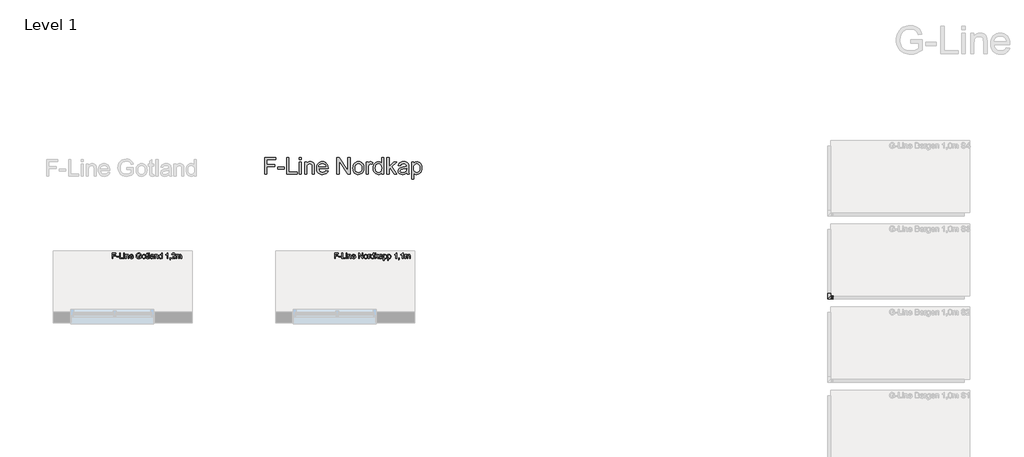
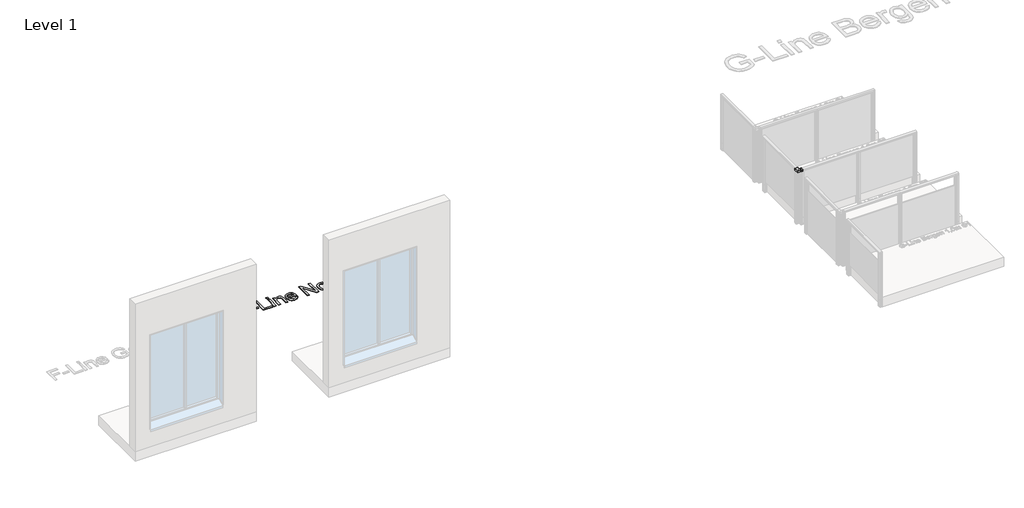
# One storey, part 56 of 66: 4 proxies.
"""IFC4 building model written with IfcOpenShell, lengths in millimetres."""

from ifc_helpers import new_model, si_unit, origin, origin_with_axes, place, context, project, spatial, polyline, outline, extrude, transform, mapped, element, save
from components import generic_models_029e0633

model = new_model("IFC4")

# Units and contexts
model_context = context("Model", 3, world=origin())
ifc_project = project(units=[si_unit("LENGTHUNIT", "METRE", prefix="MILLI")], contexts=[model_context])

# Site, building, storey
site = spatial("IfcSite", under=ifc_project)
building = spatial("IfcBuilding", under=site)
storey = spatial("IfcBuildingStorey", under=building, Name="Level 1", Elevation=0.0)

# Proxies
placement = place(None, origin())
generic_models_shape = generic_models_029e0633(model_context)
element("IfcBuildingElementProxy", 1, Name="Innore top rail 51x43 corner element : Innore top rail 51x43 element", ObjectType="Innore top rail 51x43 corner element : Innore top rail 51x43 element", at=placement, inside=storey, context=model_context, shape_type="MappedRepresentation", body=[
    mapped(generic_models_shape, transform((4466.5256066, 1488.9093698, 1000.0), x_axis=(0.0, -1.0, 0.0), y_axis=(1.0, 0.0, 0.0), z_axis=(0.0, 0.0, 1.0))),
])
element("IfcBuildingElementProxy", 2, Name="100mm Arial", ObjectType="100mm Arial", at=placement, inside=storey, context=model_context, shape_type="SweptSolid", body=[
    extrude(outline(polyline([(-8437.4350963, 2190.2886441), (-8437.4350963, 2290.7449542), (-8369.9410129, 2290.7449542), (-8369.9410129, 2278.1879155), (-8424.8780575, 2278.1879155), (-8424.8780575, 2248.3649484), (-8377.7891622, 2248.3649484), (-8377.7891622, 2235.8079096), (-8424.8780575, 2235.8079096), (-8424.8780575, 2190.2886441), (-8437.4350963, 2190.2886441)])), origin_with_axes(), (0.0, 0.0, 1.0), 10.0),
    extrude(outline(polyline([(-8360.5232339, 2220.1116112), (-8360.5232339, 2232.6686499), (-8321.2824877, 2232.6686499), (-8321.2824877, 2220.1116112), (-8360.5232339, 2220.1116112)])), origin_with_axes(), (0.0, 0.0, 1.0), 10.0),
    extrude(outline(polyline([(-8305.5861892, 2190.2886441), (-8305.5861892, 2290.7449542), (-8293.0291505, 2290.7449542), (-8293.0291505, 2202.8456829), (-8242.8009954, 2202.8456829), (-8242.8009954, 2190.2886441), (-8305.5861892, 2190.2886441)])), origin_with_axes(), (0.0, 0.0, 1.0), 10.0),
    extrude(outline(polyline([(-8230.2439566, 2278.1879155), (-8230.2439566, 2290.7449542), (-8217.6869179, 2290.7449542), (-8217.6869179, 2278.1879155), (-8230.2439566, 2278.1879155)])), origin_with_axes(), (0.0, 0.0, 1.0), 10.0),
    extrude(outline(polyline([(-8230.2439566, 2190.2886441), (-8230.2439566, 2264.0612469), (-8217.6869179, 2264.0612469), (-8217.6869179, 2190.2886441), (-8230.2439566, 2190.2886441)])), origin_with_axes(), (0.0, 0.0, 1.0), 10.0),
    extrude(outline(polyline([(-8198.8513597, 2190.2886441), (-8198.8513597, 2264.0612469), (-8186.2943209, 2264.0612469), (-8186.2943209, 2253.760551), (-8176.6926009, 2262.6632953), (-8163.5837391, 2265.6308767), (-8151.7256761, 2263.2396437), (-8143.6322722, 2256.9611243), (-8139.8676131, 2247.7272863), (-8139.2054256, 2235.5871804), (-8139.2054256, 2190.2886441), (-8151.7624643, 2190.2886441), (-8151.7624643, 2233.8949232), (-8153.2094668, 2245.0049595), (-8158.3230266, 2250.8788087), (-8166.943728, 2253.0738379), (-8180.5676245, 2248.1442192), (-8184.8626468, 2241.0011771), (-8186.2943209, 2229.4312884), (-8186.2943209, 2190.2886441), (-8198.8513597, 2190.2886441)])), origin_with_axes(), (0.0, 0.0, 1.0), 10.0),
    extrude(outline(polyline([(-8070.2888651, 2212.2634619), (-8057.977081, 2210.6938321), (-8062.4131247, 2201.4170744), (-8069.4917875, 2194.4824988), (-8079.0536537, 2190.1598854), (-8090.9393078, 2188.7190142), (-8105.6729817, 2191.2052834), (-8117.0098785, 2198.6640908), (-8124.2387597, 2210.6110586), (-8126.6483868, 2226.5618088), (-8124.2142343, 2243.0490536), (-8116.9117766, 2255.3792318), (-8105.728164, 2263.0679655), (-8091.6505463, 2265.6308767), (-8078.0113213, 2263.0740968), (-8067.1128172, 2255.4037572), (-8059.9667095, 2243.0981045), (-8057.5846736, 2226.6353852), (-8057.65825, 2223.2508709), (-8114.091348, 2223.2508709), (-8111.9177786, 2213.8514859), (-8106.8685982, 2206.9414357), (-8099.581469, 2202.6923987), (-8090.6940531, 2201.276053), (-8078.382269, 2203.9002779), (-8070.2888651, 2212.2634619)]), holes=[polyline([(-8114.091348, 2235.8079096), (-8070.1417123, 2235.8079096), (-8075.1694329, 2247.187726), (-8082.4902846, 2251.6023099), (-8091.6995972, 2253.0738379), (-8107.1629038, 2248.3772111), (-8112.0281432, 2242.8865723), (-8114.091348, 2235.8079096)])]), origin_with_axes(), (0.0, 0.0, 1.0), 10.0),
    extrude(outline(polyline([(-7957.1283634, 2229.5293902), (-7957.1283634, 2242.086429), (-7916.3179874, 2242.086429), (-7916.3179874, 2204.53794), (-7936.465658, 2192.6921398), (-7957.7660255, 2188.7190142), (-7971.8528403, 2190.2978411), (-7984.584623, 2195.0343218), (-7995.1612303, 2202.7629094), (-8002.782519, 2213.318057), (-8007.390241, 2225.979329), (-8008.9261483, 2240.0262898), (-8007.3963724, 2254.1744182), (-8002.8070445, 2267.3353966), (-7995.348237, 2278.3749221), (-7985.2100224, 2286.158692), (-7972.8614501, 2290.7756111), (-7958.7715697, 2292.3145841), (-7939.1266711, 2288.7461287), (-7925.3556218, 2278.8133149), (-7917.7649899, 2262.1973114), (-7929.34101, 2258.9354244), (-7935.0677064, 2270.5482327), (-7944.8533675, 2277.243685), (-7958.9677734, 2279.7575453), (-7975.0442166, 2277.0474813), (-7985.9825746, 2269.935096), (-7992.4450349, 2260.2597996), (-7996.3691096, 2240.5413246), (-7991.6479573, 2218.6523459), (-7977.9136961, 2205.5557469), (-7958.7715697, 2201.276053), (-7941.5914805, 2204.5011518), (-7928.8750262, 2211.3805451), (-7928.8750262, 2229.5293902), (-7957.1283634, 2229.5293902)])), origin_with_axes(), (0.0, 0.0, 1.0), 10.0),
    extrude(outline(polyline([(-7900.621689, 2227.1749455), (-7897.9054936, 2244.9620399), (-7889.7569074, 2257.4638964), (-7879.6892034, 2263.5891316), (-7867.6349367, 2265.6308767), (-7854.4433015, 2263.1446075), (-7843.906548, 2255.6858001), (-7836.9995636, 2243.8430655), (-7834.6972354, 2228.2050151), (-7838.7684628, 2205.8623152), (-7850.6265258, 2193.2194373), (-7867.6349367, 2188.7190142), (-7880.9859875, 2191.1960863), (-7891.5104782, 2198.6273026), (-7898.3438863, 2210.7183575), (-7900.621689, 2227.1749455)]), holes=[polyline([(-7888.0646502, 2227.1994709), (-7886.6115163, 2215.834983), (-7882.2521147, 2207.7385134), (-7875.6915524, 2202.8916681), (-7867.6349367, 2201.276053), (-7859.6151092, 2202.9008652), (-7853.0668097, 2207.7753016), (-7848.7074081, 2215.9790701), (-7847.2542742, 2227.5918784), (-7848.7166051, 2238.6252726), (-7853.1035979, 2246.6113775), (-7859.6610945, 2251.4582228), (-7867.6349367, 2253.0738379), (-7875.6915524, 2251.4643542), (-7882.2521147, 2246.635903), (-7886.6115163, 2238.5578275), (-7888.0646502, 2227.1994709)])]), origin_with_axes(), (0.0, 0.0, 1.0), 10.0),
    extrude(outline(polyline([(-7793.8868594, 2200.7610182), (-7792.3172296, 2189.9207621), (-7801.7104832, 2188.7190142), (-7812.2319082, 2190.8036789), (-7817.480358, 2196.2728579), (-7819.000937, 2210.5221538), (-7819.000937, 2251.5042081), (-7828.418716, 2251.5042081), (-7828.418716, 2264.0612469), (-7819.000937, 2264.0612469), (-7819.000937, 2281.9893627), (-7806.4438982, 2289.3715281), (-7806.4438982, 2264.0612469), (-7793.8868594, 2264.0612469), (-7793.8868594, 2251.5042081), (-7806.4438982, 2251.5042081), (-7806.4438982, 2210.8900358), (-7805.7817106, 2204.4153127), (-7803.6357323, 2202.1221816), (-7799.3560384, 2201.276053), (-7793.8868594, 2200.7610182)])), origin_with_axes(), (0.0, 0.0, 1.0), 10.0),
    extrude(outline(polyline([(-7781.3298206, 2190.2886441), (-7781.3298206, 2290.7449542), (-7768.7727819, 2290.7449542), (-7768.7727819, 2190.2886441), (-7781.3298206, 2190.2886441)])), origin_with_axes(), (0.0, 0.0, 1.0), 10.0),
    extrude(outline(polyline([(-7702.8483283, 2199.7064232), (-7715.0252224, 2191.1960863), (-7728.4774407, 2188.7190142), (-7738.9712746, 2190.2089363), (-7746.7121249, 2194.6787026), (-7751.4853938, 2201.4661254), (-7753.0764834, 2209.9090172), (-7750.6729877, 2219.841831), (-7744.3576801, 2227.0523181), (-7735.5653004, 2231.1725965), (-7724.7005189, 2233.0610574), (-7702.9219047, 2237.3775395), (-7702.8483283, 2240.1734426), (-7706.3064191, 2249.4440689), (-7720.187833, 2253.0738379), (-7732.8920246, 2250.6580795), (-7738.9498148, 2242.086429), (-7751.5068536, 2243.6560589), (-7746.0744628, 2255.918792), (-7735.1361048, 2263.1047537), (-7718.5691523, 2265.6308767), (-7703.3511004, 2263.3990593), (-7694.7549244, 2257.7949902), (-7690.9044262, 2249.2723906), (-7690.2912896, 2238.2849817), (-7690.2912896, 2222.6622597), (-7689.6536275, 2200.8468573), (-7687.1520299, 2190.2886441), (-7699.7090687, 2190.2886441), (-7702.8483283, 2199.7064232)]), holes=[polyline([(-7702.8483283, 2224.8205007), (-7723.1063635, 2220.9700025), (-7733.9098315, 2218.9343888), (-7738.802662, 2215.6234508), (-7740.5194446, 2210.7919339), (-7736.779311, 2203.9983798), (-7725.8041648, 2201.276053), (-7713.0999733, 2204.2804226), (-7704.9084675, 2211.5522234), (-7702.9219047, 2221.2643081), (-7702.8483283, 2224.8205007)])]), origin_with_axes(), (0.0, 0.0, 1.0), 10.0),
    extrude(outline(polyline([(-7673.0253613, 2190.2886441), (-7673.0253613, 2264.0612469), (-7660.4683225, 2264.0612469), (-7660.4683225, 2253.760551), (-7650.8666024, 2262.6632953), (-7637.7577407, 2265.6308767), (-7625.8996777, 2263.2396437), (-7617.8062738, 2256.9611243), (-7614.0416147, 2247.7272863), (-7613.3794271, 2235.5871804), (-7613.3794271, 2190.2886441), (-7625.9364659, 2190.2886441), (-7625.9364659, 2233.8949232), (-7627.3834684, 2245.0049595), (-7632.4970281, 2250.8788087), (-7641.1177296, 2253.0738379), (-7654.7416261, 2248.1442192), (-7659.0366484, 2241.0011771), (-7660.4683225, 2229.4312884), (-7660.4683225, 2190.2886441), (-7673.0253613, 2190.2886441)])), origin_with_axes(), (0.0, 0.0, 1.0), 10.0),
    extrude(outline(polyline([(-7550.5942333, 2190.2886441), (-7550.5942333, 2202.1344443), (-7558.902235, 2192.0728718), (-7570.3862846, 2188.7190142), (-7585.9354303, 2193.5750566), (-7596.9228392, 2207.1253767), (-7600.8223883, 2227.1013691), (-7597.2294075, 2247.0896241), (-7586.4627278, 2260.8484108), (-7570.4353355, 2265.6308767), (-7558.8593154, 2262.2095741), (-7550.5942333, 2253.3190926), (-7550.5942333, 2290.7449542), (-7538.0371945, 2290.7449542), (-7538.0371945, 2190.2886441), (-7550.5942333, 2190.2886441)]), holes=[polyline([(-7588.2653496, 2227.15042), (-7586.8490039, 2215.7920634), (-7582.5999669, 2207.7139879), (-7576.4256807, 2202.8855367), (-7569.2335877, 2201.276053), (-7562.0445604, 2202.8119603), (-7556.0266241, 2207.4196823), (-7551.952331, 2215.1850581), (-7550.5942333, 2226.1939268), (-7551.9768564, 2238.2297994), (-7556.1247259, 2246.5745893), (-7562.2959464, 2251.4490258), (-7569.7486225, 2253.0738379), (-7577.0142919, 2251.5134051), (-7582.9678488, 2246.8321067), (-7586.9409744, 2238.7908195), (-7588.2653496, 2227.15042)])]), origin_with_axes(), (0.0, 0.0, 1.0), 10.0),
    extrude(outline(polyline([(-7436.0112545, 2190.2886441), (-7448.5682933, 2190.2886441), (-7448.5682933, 2268.5739327), (-7460.4631445, 2260.100384), (-7473.6823708, 2253.760551), (-7473.6823708, 2265.6308767), (-7455.2760083, 2277.3785751), (-7444.1046584, 2290.7449542), (-7436.0112545, 2290.7449542), (-7436.0112545, 2190.2886441)])), origin_with_axes(), (0.0, 0.0, 1.0), 10.0),
    extrude(outline(polyline([(-7399.909768, 2190.2886441), (-7399.909768, 2202.8456829), (-7387.3527293, 2202.8456829), (-7387.3527293, 2190.2886441), (-7389.6090722, 2177.4495625), (-7396.7705084, 2169.8834561), (-7399.909768, 2174.5923456), (-7395.2989804, 2180.0124737), (-7393.6557741, 2190.2886441), (-7399.909768, 2190.2886441)])), origin_with_axes(), (0.0, 0.0, 1.0), 10.0),
    extrude(outline(polyline([(-7302.5927176, 2202.8456829), (-7302.5927176, 2190.2886441), (-7368.5171711, 2190.2886441), (-7367.1682705, 2198.9461337), (-7359.5408504, 2212.2757247), (-7343.8200265, 2226.8315889), (-7322.1395143, 2247.7518117), (-7316.7193862, 2261.9765822), (-7321.8329459, 2273.4912887), (-7335.1870624, 2278.1879155), (-7349.1052645, 2273.6016533), (-7354.3905025, 2260.9219872), (-7366.9475413, 2262.491617), (-7363.9033178, 2274.6378542), (-7357.3212957, 2283.5099417), (-7347.5448317, 2288.9362011), (-7334.9172822, 2290.7449542), (-7322.1977623, 2288.733866), (-7312.4396923, 2282.7006013), (-7306.2316837, 2273.6874924), (-7304.1623474, 2262.7368717), (-7306.3941649, 2250.8297578), (-7313.8131184, 2238.5179737), (-7331.802548, 2221.313359), (-7346.2480477, 2209.2345668), (-7351.9134304, 2202.8456829), (-7302.5927176, 2202.8456829)])), origin_with_axes(), (0.0, 0.0, 1.0), 10.0),
    extrude(outline(polyline([(-7286.8964191, 2190.2886441), (-7286.8964191, 2264.0612469), (-7274.3393804, 2264.0612469), (-7274.3393804, 2251.921141), (-7265.7064162, 2261.8662176), (-7253.4191576, 2265.6308767), (-7240.8375933, 2261.7926412), (-7233.9214118, 2251.0382242), (-7224.123488, 2261.9827136), (-7211.7503902, 2265.6308767), (-7202.3111514, 2264.1133635), (-7195.3305905, 2259.5608238), (-7191.0171741, 2251.8506303), (-7189.5793687, 2240.8601557), (-7189.5793687, 2190.2886441), (-7202.1364074, 2190.2886441), (-7202.1364074, 2235.4645531), (-7203.3013671, 2245.94919), (-7207.5197473, 2251.1118006), (-7214.6934462, 2253.0738379), (-7227.0420185, 2248.0461173), (-7230.7300355, 2241.5039492), (-7231.9593745, 2231.9328859), (-7231.9593745, 2190.2886441), (-7244.5164133, 2190.2886441), (-7244.5164133, 2236.8625047), (-7247.422681, 2249.027136), (-7256.9508247, 2253.0738379), (-7266.2459765, 2250.3760366), (-7272.426394, 2242.4788365), (-7274.3393804, 2227.4937765), (-7274.3393804, 2190.2886441), (-7286.8964191, 2190.2886441)])), origin_with_axes(), (0.0, 0.0, 1.0), 10.0),
])
element("IfcBuildingElementProxy", 3, Name="100mm Arial", ObjectType="100mm Arial", at=placement, inside=storey, context=model_context, shape_type="SweptSolid", body=[
    extrude(outline(polyline([(-4437.4350963, 2190.2886441), (-4437.4350963, 2290.7449542), (-4369.9410129, 2290.7449542), (-4369.9410129, 2278.1879155), (-4424.8780575, 2278.1879155), (-4424.8780575, 2248.3649484), (-4377.7891622, 2248.3649484), (-4377.7891622, 2235.8079096), (-4424.8780575, 2235.8079096), (-4424.8780575, 2190.2886441), (-4437.4350963, 2190.2886441)])), origin_with_axes(), (0.0, 0.0, 1.0), 10.0),
    extrude(outline(polyline([(-4360.5232339, 2220.1116112), (-4360.5232339, 2232.6686499), (-4321.2824877, 2232.6686499), (-4321.2824877, 2220.1116112), (-4360.5232339, 2220.1116112)])), origin_with_axes(), (0.0, 0.0, 1.0), 10.0),
    extrude(outline(polyline([(-4305.5861892, 2190.2886441), (-4305.5861892, 2290.7449542), (-4293.0291505, 2290.7449542), (-4293.0291505, 2202.8456829), (-4242.8009954, 2202.8456829), (-4242.8009954, 2190.2886441), (-4305.5861892, 2190.2886441)])), origin_with_axes(), (0.0, 0.0, 1.0), 10.0),
    extrude(outline(polyline([(-4230.2439566, 2278.1879155), (-4230.2439566, 2290.7449542), (-4217.6869179, 2290.7449542), (-4217.6869179, 2278.1879155), (-4230.2439566, 2278.1879155)])), origin_with_axes(), (0.0, 0.0, 1.0), 10.0),
    extrude(outline(polyline([(-4230.2439566, 2190.2886441), (-4230.2439566, 2264.0612469), (-4217.6869179, 2264.0612469), (-4217.6869179, 2190.2886441), (-4230.2439566, 2190.2886441)])), origin_with_axes(), (0.0, 0.0, 1.0), 10.0),
    extrude(outline(polyline([(-4198.8513597, 2190.2886441), (-4198.8513597, 2264.0612469), (-4186.2943209, 2264.0612469), (-4186.2943209, 2253.760551), (-4176.6926009, 2262.6632953), (-4163.5837391, 2265.6308767), (-4151.7256761, 2263.2396437), (-4143.6322722, 2256.9611243), (-4139.8676131, 2247.7272863), (-4139.2054256, 2235.5871804), (-4139.2054256, 2190.2886441), (-4151.7624643, 2190.2886441), (-4151.7624643, 2233.8949232), (-4153.2094668, 2245.0049595), (-4158.3230266, 2250.8788087), (-4166.943728, 2253.0738379), (-4180.5676245, 2248.1442192), (-4184.8626468, 2241.0011771), (-4186.2943209, 2229.4312884), (-4186.2943209, 2190.2886441), (-4198.8513597, 2190.2886441)])), origin_with_axes(), (0.0, 0.0, 1.0), 10.0),
    extrude(outline(polyline([(-4070.2888651, 2212.2634619), (-4057.977081, 2210.6938321), (-4062.4131247, 2201.4170744), (-4069.4917875, 2194.4824988), (-4079.0536537, 2190.1598854), (-4090.9393078, 2188.7190142), (-4105.6729817, 2191.2052834), (-4117.0098785, 2198.6640908), (-4124.2387597, 2210.6110586), (-4126.6483868, 2226.5618088), (-4124.2142343, 2243.0490536), (-4116.9117766, 2255.3792318), (-4105.728164, 2263.0679655), (-4091.6505463, 2265.6308767), (-4078.0113213, 2263.0740968), (-4067.1128172, 2255.4037572), (-4059.9667095, 2243.0981045), (-4057.5846736, 2226.6353852), (-4057.65825, 2223.2508709), (-4114.091348, 2223.2508709), (-4111.9177786, 2213.8514859), (-4106.8685982, 2206.9414357), (-4099.581469, 2202.6923987), (-4090.6940531, 2201.276053), (-4078.382269, 2203.9002779), (-4070.2888651, 2212.2634619)]), holes=[polyline([(-4114.091348, 2235.8079096), (-4070.1417123, 2235.8079096), (-4075.1694329, 2247.187726), (-4082.4902846, 2251.6023099), (-4091.6995972, 2253.0738379), (-4107.1629038, 2248.3772111), (-4112.0281432, 2242.8865723), (-4114.091348, 2235.8079096)])]), origin_with_axes(), (0.0, 0.0, 1.0), 10.0),
    extrude(outline(polyline([(-4004.2172588, 2190.2886441), (-4004.2172588, 2290.7449542), (-3990.7773032, 2290.7449542), (-3938.2928053, 2211.1598159), (-3938.2928053, 2290.7449542), (-3925.7357665, 2290.7449542), (-3925.7357665, 2190.2886441), (-3939.175722, 2190.2886441), (-3991.66022, 2269.8983078), (-3991.66022, 2190.2886441), (-4004.2172588, 2190.2886441)])), origin_with_axes(), (0.0, 0.0, 1.0), 10.0),
    extrude(outline(polyline([(-3908.4698382, 2227.1749455), (-3905.7536428, 2244.9620399), (-3897.6050566, 2257.4638964), (-3887.5373527, 2263.5891316), (-3875.4830859, 2265.6308767), (-3862.2914507, 2263.1446075), (-3851.7546973, 2255.6858001), (-3844.8477128, 2243.8430655), (-3842.5453846, 2228.2050151), (-3846.6166121, 2205.8623152), (-3858.474675, 2193.2194373), (-3875.4830859, 2188.7190142), (-3888.8341367, 2191.1960863), (-3899.3586274, 2198.6273026), (-3906.1920355, 2210.7183575), (-3908.4698382, 2227.1749455)]), holes=[polyline([(-3895.9127994, 2227.1994709), (-3894.4596655, 2215.834983), (-3890.1002639, 2207.7385134), (-3883.5397016, 2202.8916681), (-3875.4830859, 2201.276053), (-3867.4632585, 2202.9008652), (-3860.9149589, 2207.7753016), (-3856.5555573, 2215.9790701), (-3855.1024234, 2227.5918784), (-3856.5647543, 2238.6252726), (-3860.9517471, 2246.6113775), (-3867.5092437, 2251.4582228), (-3875.4830859, 2253.0738379), (-3883.5397016, 2251.4643542), (-3890.1002639, 2246.635903), (-3894.4596655, 2238.5578275), (-3895.9127994, 2227.1994709)])]), origin_with_axes(), (0.0, 0.0, 1.0), 10.0),
    extrude(outline(polyline([(-3828.418716, 2190.2886441), (-3828.418716, 2264.0612469), (-3817.4313071, 2264.0612469), (-3817.4313071, 2253.1474143), (-3809.6322088, 2263.2028555), (-3801.7840596, 2265.6308767), (-3789.1779699, 2261.755853), (-3793.3718246, 2250.498664), (-3802.2009925, 2253.0738379), (-3809.301115, 2250.5967658), (-3813.8260636, 2243.7296352), (-3815.8616773, 2229.0634064), (-3815.8616773, 2190.2886441), (-3828.418716, 2190.2886441)])), origin_with_axes(), (0.0, 0.0, 1.0), 10.0),
    extrude(outline(polyline([(-3735.8105551, 2190.2886441), (-3735.8105551, 2202.1344443), (-3744.1185568, 2192.0728718), (-3755.6026065, 2188.7190142), (-3771.1517521, 2193.5750566), (-3782.139161, 2207.1253767), (-3786.0387102, 2227.1013691), (-3782.4457294, 2247.0896241), (-3771.6790496, 2260.8484108), (-3755.6516574, 2265.6308767), (-3744.0756373, 2262.2095741), (-3735.8105551, 2253.3190926), (-3735.8105551, 2290.7449542), (-3723.2535163, 2290.7449542), (-3723.2535163, 2190.2886441), (-3735.8105551, 2190.2886441)]), holes=[polyline([(-3773.4816714, 2227.15042), (-3772.0653257, 2215.7920634), (-3767.8162887, 2207.7139879), (-3761.6420025, 2202.8855367), (-3754.4499095, 2201.276053), (-3747.2608822, 2202.8119603), (-3741.2429459, 2207.4196823), (-3737.1686528, 2215.1850581), (-3735.8105551, 2226.1939268), (-3737.1931783, 2238.2297994), (-3741.3410478, 2246.5745893), (-3747.5122682, 2251.4490258), (-3754.9649443, 2253.0738379), (-3762.2306137, 2251.5134051), (-3768.1841707, 2246.8321067), (-3772.1572962, 2238.7908195), (-3773.4816714, 2227.15042)])]), origin_with_axes(), (0.0, 0.0, 1.0), 10.0),
    extrude(outline(polyline([(-3704.4179582, 2190.2886441), (-3704.4179582, 2290.7449542), (-3691.8609194, 2290.7449542), (-3691.8609194, 2236.7644028), (-3663.7056841, 2264.0612468), (-3646.3416539, 2264.0612468), (-3674.8402458, 2236.4210463), (-3644.772024, 2190.2886441), (-3659.4382529, 2190.2886441), (-3683.8410919, 2227.6899803), (-3691.8609194, 2219.9154074), (-3691.8609194, 2190.2886441), (-3704.4179582, 2190.2886441)])), origin_with_axes(), (0.0, 0.0, 1.0), 10.0),
    extrude(outline(polyline([(-3586.6957197, 2199.7064232), (-3598.8726138, 2191.1960863), (-3612.3248321, 2188.7190142), (-3622.818666, 2190.2089363), (-3630.5595163, 2194.6787026), (-3635.3327852, 2201.4661254), (-3636.9238748, 2209.9090172), (-3634.5203791, 2219.841831), (-3628.2050715, 2227.0523181), (-3619.4126918, 2231.1725965), (-3608.5479102, 2233.0610574), (-3586.7692961, 2237.3775395), (-3586.6957197, 2240.1734426), (-3590.1538105, 2249.4440689), (-3604.0352244, 2253.0738379), (-3616.739416, 2250.6580795), (-3622.7972062, 2242.086429), (-3635.354245, 2243.6560589), (-3629.9218542, 2255.918792), (-3618.9834962, 2263.1047537), (-3602.4165437, 2265.6308767), (-3587.1984918, 2263.3990593), (-3578.6023158, 2257.7949902), (-3574.7518176, 2249.2723906), (-3574.138681, 2238.2849817), (-3574.138681, 2222.6622597), (-3573.5010188, 2200.8468573), (-3570.9994213, 2190.2886441), (-3583.55646, 2190.2886441), (-3586.6957197, 2199.7064232)]), holes=[polyline([(-3586.6957197, 2224.8205007), (-3606.9537549, 2220.9700025), (-3617.7572229, 2218.9343888), (-3622.6500534, 2215.6234508), (-3624.366836, 2210.7919339), (-3620.6267024, 2203.9983798), (-3609.6515562, 2201.276053), (-3596.9473647, 2204.2804226), (-3588.7558589, 2211.5522234), (-3586.7692961, 2221.2643081), (-3586.6957197, 2224.8205007)])]), origin_with_axes(), (0.0, 0.0, 1.0), 10.0),
    extrude(outline(polyline([(-3556.8727527, 2162.0353069), (-3556.8727527, 2264.0612468), (-3544.3157139, 2264.0612468), (-3544.3157139, 2251.7494627), (-3535.6336988, 2262.1605232), (-3523.9105259, 2265.6308767), (-3507.9934982, 2260.7748344), (-3497.5947005, 2247.0896241), (-3494.0875588, 2227.7390312), (-3498.0484216, 2207.3951569), (-3509.5508653, 2193.5382684), (-3525.4311048, 2188.7190142), (-3536.3572001, 2191.9441131), (-3544.3157139, 2200.0988306), (-3544.3157139, 2162.0353069), (-3556.8727527, 2162.0353069)]), holes=[polyline([(-3544.3157139, 2226.5863343), (-3542.9576162, 2215.3291452), (-3538.8833231, 2207.4564705), (-3532.8715182, 2202.8211574), (-3525.7008849, 2201.276053), (-3518.4137557, 2202.8763397), (-3512.2486666, 2207.6771997), (-3508.0456148, 2215.8380486), (-3506.6445976, 2227.518302), (-3508.0118923, 2238.7141774), (-3512.1137766, 2246.6972167), (-3518.1163845, 2251.4796826), (-3525.1858501, 2253.0738379), (-3532.282907, 2251.3785151), (-3538.5154411, 2246.2925465), (-3542.8656457, 2237.9753477), (-3544.3157139, 2226.5863343)])]), origin_with_axes(), (0.0, 0.0, 1.0), 10.0),
    extrude(outline(polyline([(-3479.9608902, 2162.0353069), (-3479.9608902, 2264.0612468), (-3467.4038514, 2264.0612468), (-3467.4038514, 2251.7494627), (-3458.7218363, 2262.1605232), (-3446.9986634, 2265.6308767), (-3431.0816358, 2260.7748344), (-3420.682838, 2247.0896241), (-3417.1756964, 2227.7390312), (-3421.1365592, 2207.3951569), (-3432.6390029, 2193.5382684), (-3448.5192423, 2188.7190142), (-3459.4453376, 2191.9441131), (-3467.4038514, 2200.0988306), (-3467.4038514, 2162.0353069), (-3479.9608902, 2162.0353069)]), holes=[polyline([(-3467.4038514, 2226.5863343), (-3466.0457537, 2215.3291452), (-3461.9714606, 2207.4564705), (-3455.9596557, 2202.8211574), (-3448.7890225, 2201.276053), (-3441.5018933, 2202.8763397), (-3435.3368042, 2207.6771997), (-3431.1337524, 2215.8380486), (-3429.7327351, 2227.518302), (-3431.1000299, 2238.7141774), (-3435.2019141, 2246.6972167), (-3441.204522, 2251.4796826), (-3448.2739877, 2253.0738379), (-3455.3710445, 2251.3785151), (-3461.6035786, 2246.2925465), (-3465.9537832, 2237.9753477), (-3467.4038514, 2226.5863343)])]), origin_with_axes(), (0.0, 0.0, 1.0), 10.0),
    extrude(outline(polyline([(-3319.8586459, 2190.2886441), (-3332.4156847, 2190.2886441), (-3332.4156847, 2268.5739327), (-3344.3105358, 2260.100384), (-3357.5297622, 2253.760551), (-3357.5297622, 2265.6308767), (-3339.1233997, 2277.3785751), (-3327.9520498, 2290.7449542), (-3319.8586459, 2290.7449542), (-3319.8586459, 2190.2886441)])), origin_with_axes(), (0.0, 0.0, 1.0), 10.0),
    extrude(outline(polyline([(-3283.7571594, 2190.2886441), (-3283.7571594, 2202.8456829), (-3271.2001207, 2202.8456829), (-3271.2001207, 2190.2886441), (-3273.4564636, 2177.4495625), (-3280.6178997, 2169.8834561), (-3283.7571594, 2174.5923456), (-3279.1463718, 2180.0124737), (-3277.5031655, 2190.2886441), (-3283.7571594, 2190.2886441)])), origin_with_axes(), (0.0, 0.0, 1.0), 10.0),
    extrude(outline(polyline([(-3203.7060373, 2190.2886441), (-3216.2630761, 2190.2886441), (-3216.2630761, 2268.5739327), (-3228.1579272, 2260.100384), (-3241.3771536, 2253.760551), (-3241.3771536, 2265.6308767), (-3222.9707911, 2277.3785751), (-3211.7994412, 2290.7449542), (-3203.7060373, 2290.7449542), (-3203.7060373, 2190.2886441)])), origin_with_axes(), (0.0, 0.0, 1.0), 10.0),
    extrude(outline(polyline([(-3170.7438105, 2190.2886441), (-3170.7438105, 2264.0612468), (-3158.1867718, 2264.0612468), (-3158.1867718, 2251.921141), (-3149.5538076, 2261.8662176), (-3137.266549, 2265.6308767), (-3124.6849847, 2261.7926412), (-3117.7688032, 2251.0382242), (-3107.9708794, 2261.9827136), (-3095.5977816, 2265.6308767), (-3086.1585428, 2264.1133635), (-3079.1779819, 2259.5608238), (-3074.8645655, 2251.8506303), (-3073.4267601, 2240.8601557), (-3073.4267601, 2190.2886441), (-3085.9837988, 2190.2886441), (-3085.9837988, 2235.4645531), (-3087.1487585, 2245.94919), (-3091.3671387, 2251.1118006), (-3098.5408376, 2253.0738379), (-3110.8894099, 2248.0461173), (-3114.5774269, 2241.5039492), (-3115.8067659, 2231.9328859), (-3115.8067659, 2190.2886441), (-3128.3638047, 2190.2886441), (-3128.3638047, 2236.8625047), (-3131.2700724, 2249.027136), (-3140.7982161, 2253.0738379), (-3150.0933679, 2250.3760366), (-3156.2737854, 2242.4788365), (-3158.1867718, 2227.4937765), (-3158.1867718, 2190.2886441), (-3170.7438105, 2190.2886441)])), origin_with_axes(), (0.0, 0.0, 1.0), 10.0),
])
element("IfcBuildingElementProxy", 4, Name="300mm Arial", ObjectType="300mm Arial", at=placement, inside=storey, context=model_context, shape_type="SweptSolid", body=[
    extrude(outline(polyline([(-5692.7976924, 3711.5245925), (-5692.7976924, 4012.8935229), (-5490.3154422, 4012.8935229), (-5490.3154422, 3975.2224066), (-5655.1265761, 3975.2224066), (-5655.1265761, 3885.7535054), (-5513.8598899, 3885.7535054), (-5513.8598899, 3848.0823891), (-5655.1265761, 3848.0823891), (-5655.1265761, 3711.5245925), (-5692.7976924, 3711.5245925)])), origin_with_axes(), (0.0, 0.0, 1.0), 10.0),
    extrude(outline(polyline([(-5462.062105, 3800.9934937), (-5462.062105, 3838.66461), (-5344.3398665, 3838.66461), (-5344.3398665, 3800.9934937), (-5462.062105, 3800.9934937)])), origin_with_axes(), (0.0, 0.0, 1.0), 10.0),
    extrude(outline(polyline([(-5297.2509712, 3711.5245925), (-5297.2509712, 4012.8935229), (-5259.5798549, 4012.8935229), (-5259.5798549, 3749.1957088), (-5108.8953896, 3749.1957088), (-5108.8953896, 3711.5245925), (-5297.2509712, 3711.5245925)])), origin_with_axes(), (0.0, 0.0, 1.0), 10.0),
    extrude(outline(polyline([(-5071.2242733, 3975.2224066), (-5071.2242733, 4012.8935229), (-5033.553157, 4012.8935229), (-5033.553157, 3975.2224066), (-5071.2242733, 3975.2224066)])), origin_with_axes(), (0.0, 0.0, 1.0), 10.0),
    extrude(outline(polyline([(-5071.2242733, 3711.5245925), (-5071.2242733, 3932.8424008), (-5033.553157, 3932.8424008), (-5033.553157, 3711.5245925), (-5071.2242733, 3711.5245925)])), origin_with_axes(), (0.0, 0.0, 1.0), 10.0),
    extrude(outline(polyline([(-4977.0464826, 3711.5245925), (-4977.0464826, 3932.8424008), (-4939.3753662, 3932.8424008), (-4939.3753662, 3901.9403132), (-4926.2879643, 3917.5201157), (-4910.570206, 3928.6485461), (-4892.2220915, 3935.3256043), (-4871.2436207, 3937.5512903), (-4852.674777, 3935.7578656), (-4835.6694318, 3930.3775914), (-4821.4875809, 3922.0818524), (-4811.3892201, 3911.5420333), (-4800.0952429, 3883.840519), (-4798.1086801, 3847.4202015), (-4798.1086801, 3711.5245925), (-4835.7797964, 3711.5245925), (-4835.7797964, 3842.34343), (-4840.120804, 3875.6735387), (-4846.1264775, 3885.5971556), (-4855.4614831, 3893.2950863), (-4867.426845, 3898.2339021), (-4881.3235874, 3899.880174), (-4903.3873101, 3896.18296), (-4922.1952771, 3885.0913178), (-4929.7115661, 3876.0368222), (-4935.080344, 3863.6621916), (-4939.3753662, 3828.9525254), (-4939.3753662, 3711.5245925), (-4977.0464826, 3711.5245925)])), origin_with_axes(), (0.0, 0.0, 1.0), 10.0),
    extrude(outline(polyline([(-4591.3589988, 3777.449046), (-4554.4236465, 3772.7401565), (-4567.7317777, 3744.9098836), (-4588.9677658, 3724.1061567), (-4617.6533644, 3711.1383164), (-4653.3103268, 3706.815703), (-4676.6846291, 3708.6804048), (-4697.5113485, 3714.2745104), (-4715.7904852, 3723.5980197), (-4731.522039, 3736.6509328), (-4744.1725811, 3753.0699661), (-4753.2086826, 3772.4918362), (-4758.6303435, 3794.916543), (-4760.4375638, 3820.3440867), (-4758.6119494, 3846.6338538), (-4753.1351062, 3869.8058209), (-4744.0070342, 3889.8599882), (-4731.2277334, 3906.7963555), (-4715.5375663, 3920.2516395), (-4697.6768954, 3929.8625566), (-4677.6457208, 3935.6291069), (-4655.4440424, 3937.5512903), (-4633.9574346, 3935.6337054), (-4614.5263675, 3929.8809507), (-4597.150841, 3920.2930262), (-4581.8308551, 3906.8699319), (-4569.3251666, 3889.9703528), (-4560.3925319, 3869.9529737), (-4555.0329511, 3846.8177948), (-4553.2464241, 3820.5648159), (-4553.4671533, 3810.4112728), (-4722.7664475, 3810.4112728), (-4716.2457391, 3782.2131179), (-4701.098198, 3761.4829674), (-4679.2368104, 3748.7358563), (-4652.5745628, 3744.4868193), (-4632.5249941, 3746.4549879), (-4615.6392105, 3752.359494), (-4601.9172121, 3762.5682193), (-4591.3589988, 3777.449046)]), holes=[polyline([(-4722.7664475, 3848.0823891), (-4590.9175404, 3848.0823891), (-4596.0127061, 3867.984805), (-4606.0007022, 3882.2218383), (-4627.9632573, 3895.4655901), (-4655.5911952, 3899.880174), (-4680.9842499, 3896.3577039), (-4701.9811148, 3885.7902936), (-4716.5768329, 3869.3183773), (-4722.7664475, 3848.0823891)])]), origin_with_axes(), (0.0, 0.0, 1.0), 10.0),
    extrude(outline(polyline([(-4393.1441798, 3711.5245925), (-4393.1441798, 4012.8935229), (-4352.8243131, 4012.8935229), (-4195.3708192, 3774.1381081), (-4195.3708192, 4012.8935229), (-4157.6997029, 4012.8935229), (-4157.6997029, 3711.5245925), (-4198.0195696, 3711.5245925), (-4355.4730635, 3950.3535838), (-4355.4730635, 3711.5245925), (-4393.1441798, 3711.5245925)])), origin_with_axes(), (0.0, 0.0, 1.0), 10.0),
    extrude(outline(polyline([(-4105.901918, 3822.1834966), (-4103.8647714, 3850.8461026), (-4097.7533318, 3875.54478), (-4087.567599, 3896.279529), (-4073.3075732, 3913.0503495), (-4058.9509783, 3923.7695111), (-4043.1044614, 3931.4260551), (-4025.7680224, 3936.0199815), (-4006.9416613, 3937.5512903), (-3986.1586278, 3935.6865885), (-3967.3667556, 3930.0924829), (-3950.5660448, 3920.7689736), (-3935.7564952, 3907.7160605), (-3923.6692724, 3891.3752022), (-3915.0355418, 3872.1878568), (-3909.8553035, 3850.1540246), (-3908.1285574, 3825.2737054), (-3911.1819779, 3787.216313), (-3920.3422396, 3758.2456059), (-3935.342628, 3736.5497652), (-3955.9164285, 3720.3169722), (-3980.3529901, 3710.1910203), (-4006.9416613, 3706.815703), (-4028.0281974, 3708.673507), (-4046.9948135, 3714.2469193), (-4063.8415096, 3723.5359396), (-4078.5682857, 3736.5405682), (-4090.5267498, 3753.0400757), (-4099.0685099, 3772.8137329), (-4104.193566, 3795.8615399), (-4105.901918, 3822.1834966)]), holes=[polyline([(-4068.2308017, 3822.257073), (-4063.8714, 3788.1636091), (-4050.7931951, 3763.8742004), (-4031.1115084, 3749.3336646), (-4006.9416613, 3744.4868193), (-3982.8821788, 3749.3612557), (-3963.2372802, 3763.984565), (-3950.1590753, 3788.5958705), (-3945.7996737, 3823.4342954), (-3950.1866665, 3856.5344779), (-3963.3476448, 3880.4927929), (-3983.0201345, 3895.0333287), (-4006.9416613, 3899.880174), (-4031.1115084, 3895.0517228), (-4050.7931951, 3880.5663693), (-4063.8714, 3856.3321429), (-4068.2308017, 3822.257073)])]), origin_with_axes(), (0.0, 0.0, 1.0), 10.0),
    extrude(outline(polyline([(-3865.7485515, 3711.5245925), (-3865.7485515, 3932.8424008), (-3832.7863248, 3932.8424008), (-3832.7863248, 3900.1009032), (-3820.6094307, 3919.0836142), (-3809.3890299, 3930.2672268), (-3798.1318408, 3935.7302745), (-3785.8445822, 3937.5512903), (-3767.0826004, 3934.6450226), (-3748.0263131, 3925.9262193), (-3760.6078773, 3892.1546521), (-3773.8516291, 3897.9487936), (-3787.095381, 3899.880174), (-3798.343373, 3898.02237), (-3808.3957485, 3892.4489577), (-3816.5167435, 3883.5830016), (-3821.9705941, 3871.847566), (-3826.5507249, 3850.8047159), (-3828.0774352, 3827.8488794), (-3828.0774352, 3711.5245925), (-3865.7485515, 3711.5245925)])), origin_with_axes(), (0.0, 0.0, 1.0), 10.0),
    extrude(outline(polyline([(-3587.9240688, 3711.5245925), (-3587.9240688, 3747.0619932), (-3599.1950534, 3729.4542412), (-3612.8480739, 3716.8772755), (-3628.8831304, 3709.3310961), (-3647.3002228, 3706.815703), (-3671.6540109, 3710.4577347), (-3693.9476598, 3721.38383), (-3712.8200061, 3738.8306336), (-3726.9098865, 3762.0347904), (-3735.6838721, 3790.0582014), (-3738.608534, 3821.9627675), (-3735.9137984, 3853.4718603), (-3727.8295915, 3881.9275327), (-3714.3651105, 3905.7111037), (-3695.5295524, 3923.2038925), (-3672.7484598, 3933.9644409), (-3647.4473756, 3937.5512903), (-3629.0164876, 3934.9853134), (-3612.7193152, 3927.2873827), (-3598.9053463, 3915.4875677), (-3587.9240688, 3900.615938), (-3587.9240688, 4012.8935229), (-3550.2529525, 4012.8935229), (-3550.2529525, 3711.5245925), (-3587.9240688, 3711.5245925)]), holes=[polyline([(-3700.9374177, 3822.1099203), (-3696.6883806, 3788.0348504), (-3683.9412695, 3763.800624), (-3665.4184111, 3749.3152705), (-3643.842132, 3744.4868193), (-3622.2750501, 3749.0945413), (-3604.2212412, 3762.9177072), (-3591.9983619, 3786.2138346), (-3587.9240688, 3819.2404407), (-3592.0719383, 3855.3480585), (-3604.5155468, 3880.3824283), (-3623.0292082, 3895.0057376), (-3645.3872364, 3899.880174), (-3667.1842446, 3895.1988756), (-3685.0449155, 3881.1549805), (-3696.9642921, 3857.0311186), (-3700.9374177, 3822.1099203)])]), origin_with_axes(), (0.0, 0.0, 1.0), 10.0),
    extrude(outline(polyline([(-3493.746278, 3711.5245925), (-3493.746278, 4012.8935229), (-3456.0751617, 4012.8935229), (-3456.0751617, 3850.9518687), (-3371.6094556, 3932.8424008), (-3319.5173651, 3932.8424008), (-3405.0131408, 3849.9217991), (-3314.8084755, 3711.5245925), (-3358.8071622, 3711.5245925), (-3432.0156792, 3823.728601), (-3456.0751617, 3800.4048825), (-3456.0751617, 3711.5245925), (-3493.746278, 3711.5245925)])), origin_with_axes(), (0.0, 0.0, 1.0), 10.0),
    extrude(outline(polyline([(-3140.5795626, 3739.7779297), (-3158.5781892, 3724.34528), (-3177.1102448, 3714.2469193), (-3196.5987934, 3708.673507), (-3217.4668996, 3706.815703), (-3248.9484014, 3711.2854692), (-3272.1709523, 3724.6947679), (-3286.490759, 3745.0570364), (-3291.2640279, 3770.3857117), (-3289.4614061, 3786.0023024), (-3284.0535408, 3800.1841533), (-3275.7118165, 3812.3242592), (-3265.107618, 3821.8156147), (-3238.7304789, 3834.1764497), (-3206.1361342, 3839.8418324), (-3167.6188893, 3845.8015207), (-3140.8002918, 3852.7912786), (-3140.5795626, 3861.1789881), (-3143.1731307, 3877.9911953), (-3150.9538349, 3888.990867), (-3168.3546533, 3897.1578473), (-3192.5980768, 3899.880174), (-3215.0388785, 3898.0683552), (-3230.7106515, 3892.6328987), (-3241.3976234, 3882.5805232), (-3248.884022, 3866.9179473), (-3286.5551383, 3871.6268368), (-3280.0160359, 3892.2282285), (-3270.2579659, 3908.4150363), (-3256.3704206, 3920.7942655), (-3237.442892, 3929.9729212), (-3214.2939174, 3935.6566981), (-3187.7420344, 3937.5512903), (-3162.2754033, 3935.8774273), (-3142.0878788, 3930.855838), (-3126.8667613, 3923.3050601), (-3116.299351, 3914.0436308), (-3109.2911989, 3902.5933037), (-3104.7478563, 3888.4758322), (-3102.9084463, 3855.5136054), (-3102.9084463, 3808.6454392), (-3100.99546, 3743.1992323), (-3093.4906673, 3711.5245925), (-3131.1617836, 3711.5245925), (-3140.5795626, 3739.7779297)]), holes=[polyline([(-3140.5795626, 3815.1201623), (-3201.3536682, 3803.5686677), (-3233.764072, 3797.4618266), (-3248.4425636, 3787.5290127), (-3253.5929116, 3773.0344621), (-3250.7878113, 3761.8324553), (-3242.3725107, 3752.6537996), (-3228.5309506, 3746.5285643), (-3209.4470721, 3744.4868193), (-3189.2135624, 3746.7400965), (-3171.3344974, 3753.4999281), (-3156.8399468, 3763.4603332), (-3146.7599802, 3775.3153305), (-3142.2902139, 3787.5290127), (-3140.8002918, 3804.4515845), (-3140.5795626, 3815.1201623)])]), origin_with_axes(), (0.0, 0.0, 1.0), 10.0),
    extrude(outline(polyline([(-3051.1106614, 3626.7645808), (-3051.1106614, 3932.8424008), (-3013.4395451, 3932.8424008), (-3013.4395451, 3895.9070485), (-3001.1522865, 3914.1264043), (-2987.3934998, 3927.1402299), (-2971.3538449, 3934.9485252), (-2952.2239811, 3937.5512903), (-2926.7481529, 3933.9092586), (-2904.4728981, 3922.9831633), (-2886.3363158, 3905.4351922), (-2873.2765049, 3881.9275327), (-2865.3854361, 3854.1708361), (-2862.7550799, 3823.8757538), (-2865.725727, 3791.6584881), (-2874.6376683, 3762.8441308), (-2889.2057953, 3738.8950129), (-2909.1449995, 3721.2734654), (-2932.3675504, 3710.4301436), (-2956.7857178, 3706.815703), (-2974.1037628, 3709.2345271), (-2989.5640036, 3716.4909994), (-3002.7985584, 3727.4446858), (-3013.4395451, 3740.9551521), (-3013.4395451, 3626.7645808), (-3051.1106614, 3626.7645808)]), holes=[polyline([(-3013.4395451, 3820.4176631), (-3009.365252, 3786.6460959), (-2997.1423727, 3763.0280718), (-2979.1069579, 3749.1221324), (-2957.5950582, 3744.4868193), (-2935.7336707, 3749.2876793), (-2917.2384034, 3763.6902594), (-2904.629248, 3788.1728062), (-2900.4261962, 3823.2135662), (-2904.5280804, 3856.8011924), (-2916.8337332, 3880.7503103), (-2934.8415568, 3895.0977081), (-2956.0499539, 3899.880174), (-2977.3411243, 3894.7942054), (-2996.0387267, 3879.5362997), (-3009.0893405, 3854.5847034), (-3013.4395451, 3820.4176631)])]), origin_with_axes(), (0.0, 0.0, 1.0), 10.0),
])

save(model, "model.ifc")
